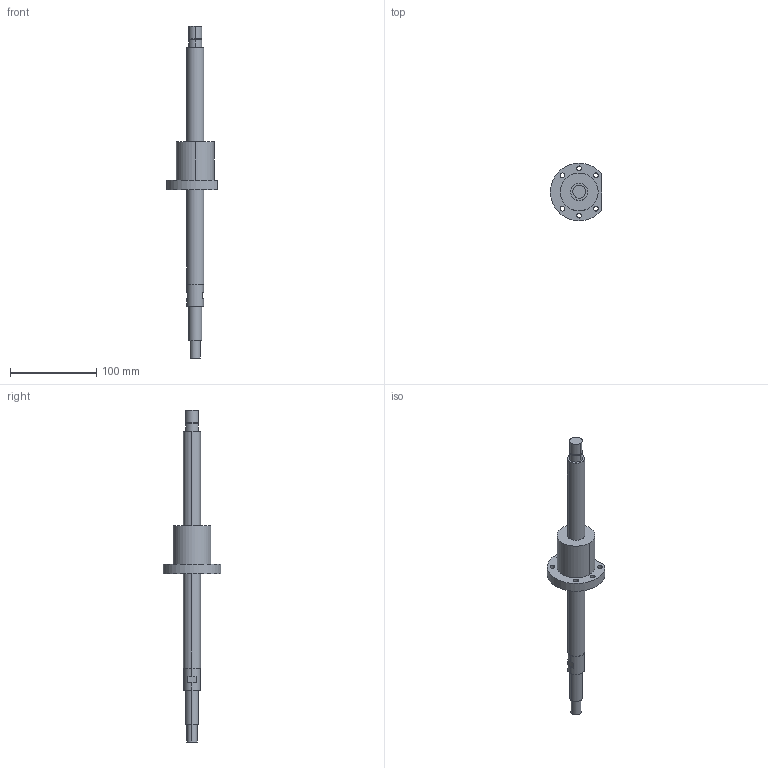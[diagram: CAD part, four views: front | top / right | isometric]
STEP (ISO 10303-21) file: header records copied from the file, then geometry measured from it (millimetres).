
FILE_DESCRIPTION((''),'2;1');
FILE_NAME('PRT0001','2008-03-31T',('mahdi'),(''),'PRO/ENGINEER BY PARAMETRIC TECHNOLOGY CORPORATION, 2005070','PRO/ENGINEER BY PARAMETRIC TECHNOLOGY CORPORATION, 2005070','');
FILE_SCHEMA(('CONFIG_CONTROL_DESIGN'));
Length unit declared in the file: millimetre
Products named in the file (1): PRT0001
Bounding box: 59.38 x 66.95 x 386 mm (x, y, z)
Volume: 191884.3 mm3; surface area: 35611.9 mm2
Topology: 1 solids, 1 shells, 67 faces, 150 edges, 100 vertices
Faces by surface type: cylinder 43, plane 24
Entity records: 1980 total; most frequent: DIRECTION 378, CARTESIAN_POINT 317, ORIENTED_EDGE 300, AXIS2_PLACEMENT_3D 161, EDGE_CURVE 150, VERTEX_POINT 100, EDGE_LOOP 94, CIRCLE 94
